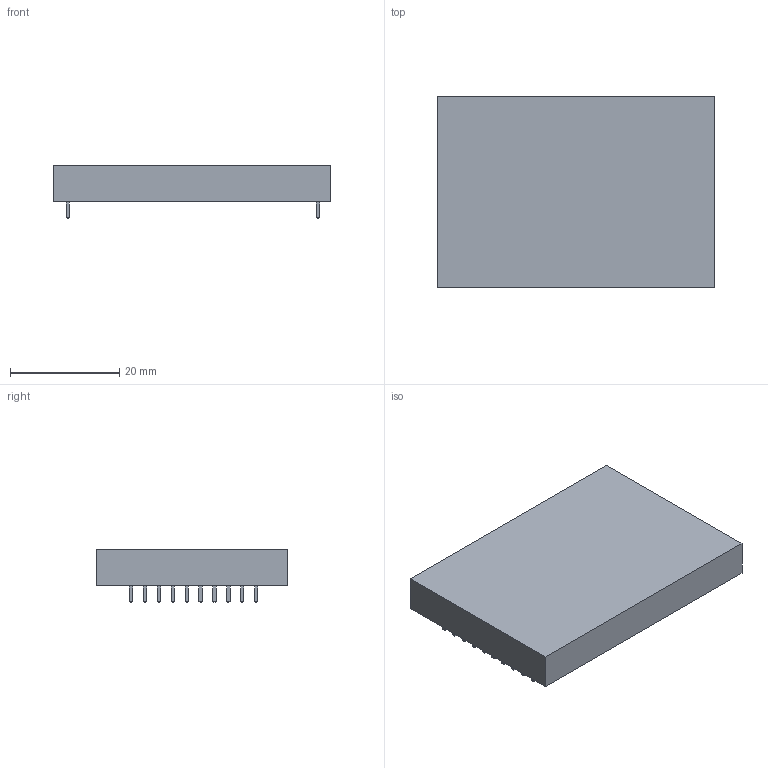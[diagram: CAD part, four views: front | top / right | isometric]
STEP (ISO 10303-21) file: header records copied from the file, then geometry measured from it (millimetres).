
FILE_DESCRIPTION(('FreeCAD Model'),'2;1');
FILE_NAME('C:/Users/PeterH/Desktop/Ag6800.step','2018-05-22T11:47:59',( 'Author'),(''),'Open CASCADE STEP processor 6.8','FreeCAD','Unknown' );
FILE_SCHEMA(('AUTOMOTIVE_DESIGN_CC2 { 1 2 10303 214 -1 1 5 4 }'));
Length unit declared in the file: millimetre
Products named in the file (2): ASSEMBLY; Chamfer
Assembly tree (1 placements, depth 2):
  ASSEMBLY
    Chamfer
Bounding box: 50.8 x 35 x 9.64 mm (x, y, z)
Volume: 11824.7 mm3; surface area: 4818.8 mm2
Topology: 1 solids, 1 shells, 168 faces, 372 edges, 224 vertices
Faces by surface type: plane 168
Entity records: 9315 total; most frequent: CARTESIAN_POINT 1510, DIRECTION 1456, LINE 1116, VECTOR 1116, ORIENTED_EDGE 744, PCURVE 744, DEFINITIONAL_REPRESENTATION 744, EDGE_CURVE 372
